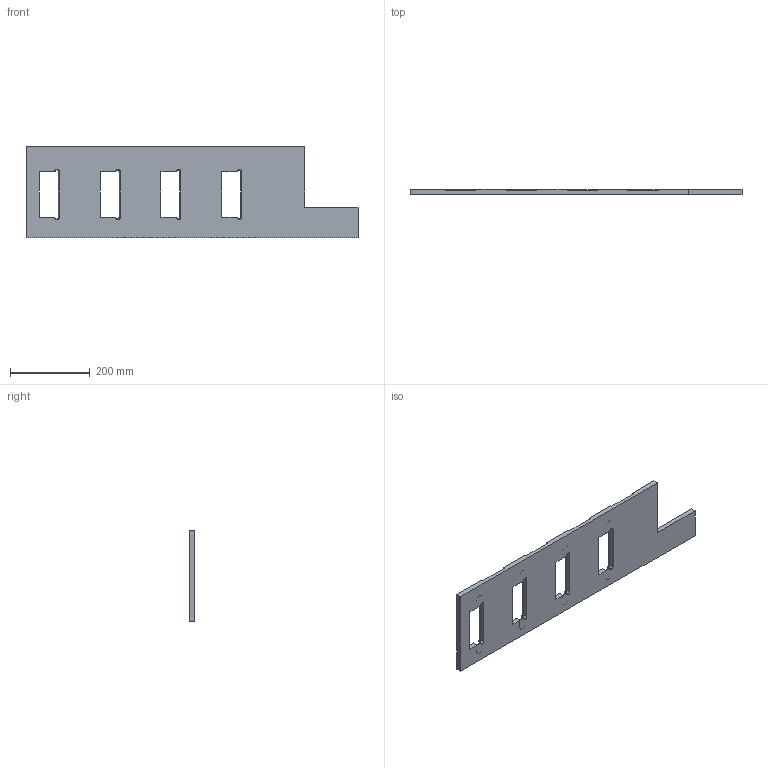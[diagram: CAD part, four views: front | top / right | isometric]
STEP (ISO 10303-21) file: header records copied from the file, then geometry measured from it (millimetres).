
FILE_DESCRIPTION (( 'STEP AP203' ), '1' );
FILE_NAME ('269-18-321.STEP', '2020-03-03T00:01:07', ( '' ), ( '' ), 'SwSTEP 2.0', 'SolidWorks 2017', '' );
FILE_SCHEMA (( 'CONFIG_CONTROL_DESIGN' ));
Length unit declared in the file: inch
Products named in the file (1): 269-18-321
Bounding box: 831.85 x 12.7 x 228.6 mm (x, y, z)
Volume: 1636831.3 mm3; surface area: 347529.5 mm2
Topology: 1 solids, 1 shells, 124 faces, 354 edges, 232 vertices
Faces by surface type: plane 76, cylinder 36, cone 12
Entity records: 4129 total; most frequent: CARTESIAN_POINT 711, ORIENTED_EDGE 708, DIRECTION 696, EDGE_CURVE 354, VECTOR 262, LINE 262, VERTEX_POINT 232, AXIS2_PLACEMENT_3D 217
